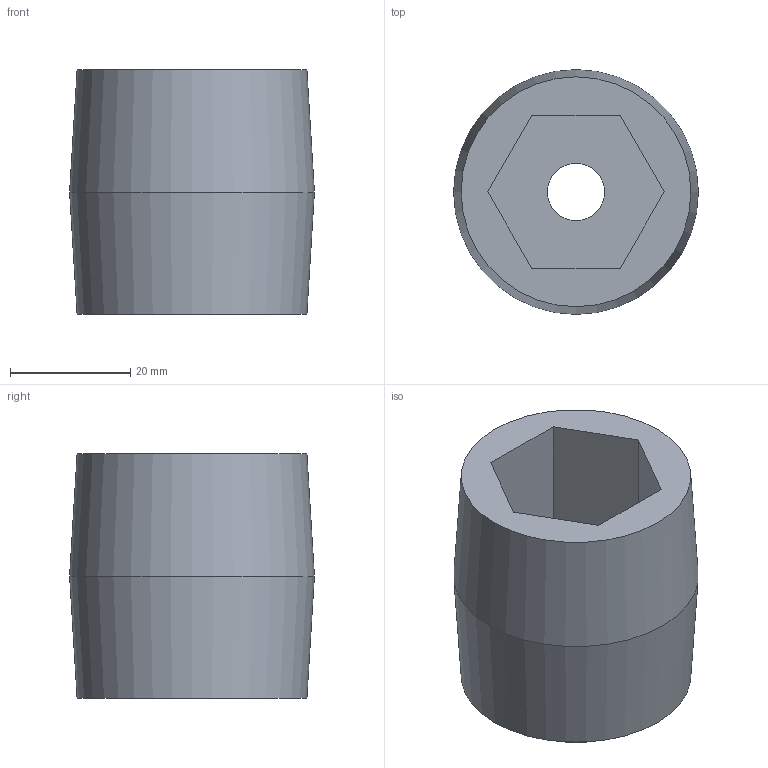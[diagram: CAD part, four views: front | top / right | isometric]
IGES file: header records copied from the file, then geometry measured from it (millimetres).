
Global section: file name: No Iges File Name specified; native system: AutoDesk Inventor R5.0; preprocessor: AutoDesk Inventor Iges Exporter R5.0; author: No Author specified; organization: No Organization specified; date: 20040116.185933; units: inch
Bounding box: 40.64 x 40.64 x 40.64 mm (x, y, z)
Surface area: 10611.3 mm2 (no closed solid volume)
Topology: 0 solids, 0 shells, 19 faces, 85 edges, 82 vertices
Faces by surface type: bspline 10, plane 8, revolution 1
